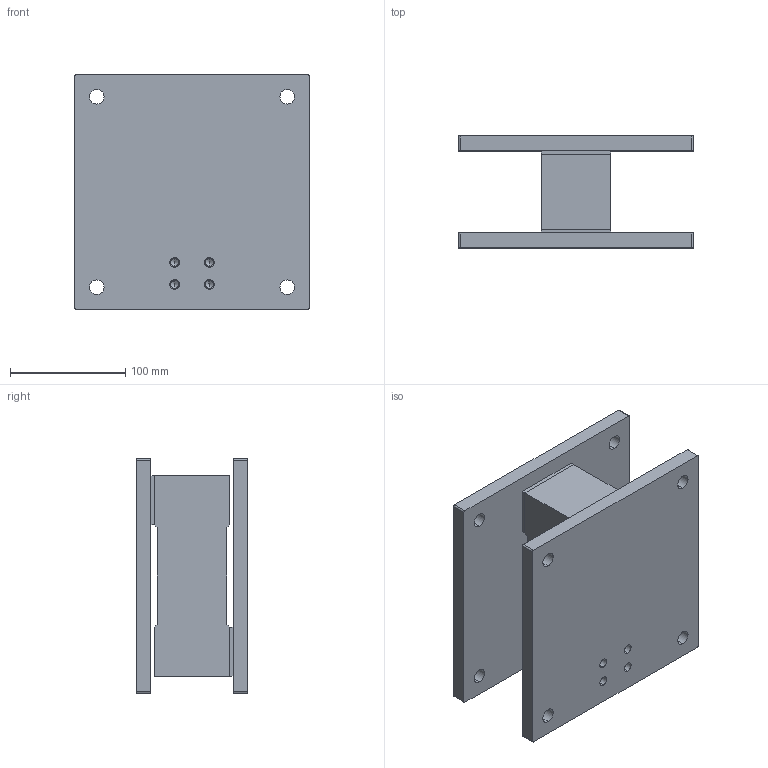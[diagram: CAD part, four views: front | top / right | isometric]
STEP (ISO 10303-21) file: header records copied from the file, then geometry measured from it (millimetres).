
FILE_DESCRIPTION (( 'STEP AP203' ), '1' );
FILE_NAME ('150-02800-rap3-weigh-module-assembly-with-8x8-plates.STEP', '2020-01-30T03:50:15', ( '' ), ( '' ), 'SwSTEP 2.0', 'SolidWorks 2016', '' );
FILE_SCHEMA (( 'CONFIG_CONTROL_DESIGN' ));
Length unit declared in the file: inch
Products named in the file (4): 500-02391 RAP3 weigh module plate, Al, 8x8x0.5; Shim for RAP3; rap3; 150-02800-rap3-weigh-module-assembly-with-8x8-plates
Assembly tree (5 placements, depth 2):
  150-02800-rap3-weigh-module-assembly-with-8x8-plates
    rap3
    Shim for RAP3  x2
    500-02391 RAP3 weigh module plate, Al, 8x8x0.5  x2
Bounding box: 203.2 x 96.75 x 203.2 mm (x, y, z)
Volume: 1686706.3 mm3; surface area: 255420.2 mm2
Topology: 5 solids, 5 shells, 142 faces, 364 edges, 224 vertices
Faces by surface type: cylinder 72, plane 38, cone 32
Entity records: 3270 total; most frequent: DIRECTION 524, CARTESIAN_POINT 470, ORIENTED_EDGE 448, EDGE_CURVE 224, AXIS2_PLACEMENT_3D 198, VERTEX_POINT 144, VECTOR 128, LINE 128
